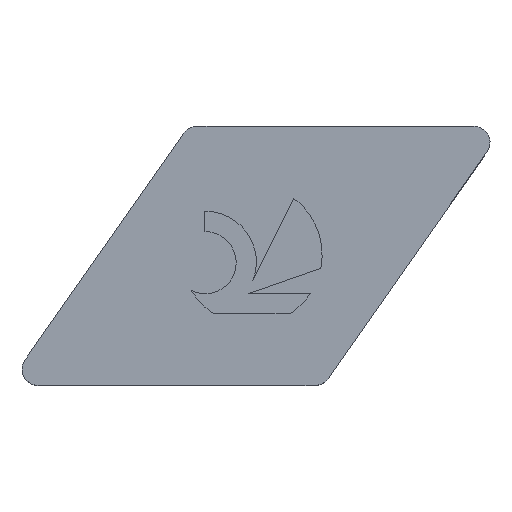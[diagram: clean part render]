
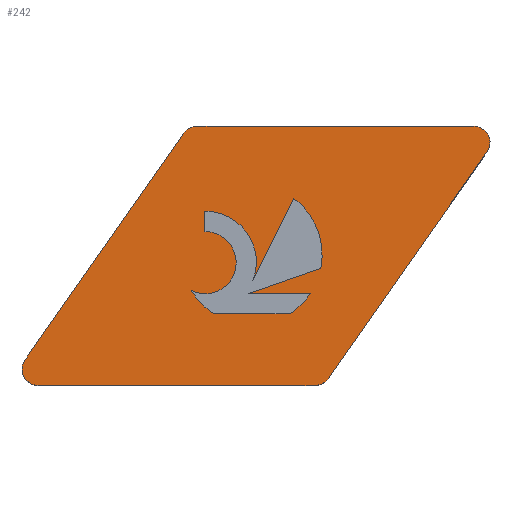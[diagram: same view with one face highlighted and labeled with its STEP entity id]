
A CAD part, top view. The second image highlights one B-rep face of the part: STEP entity #242.
In plain terms, the highlighted planar face has unit normal (0, 0, 1).
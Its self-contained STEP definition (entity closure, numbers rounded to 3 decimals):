
#144=EDGE_CURVE('',#376,#152,#397,.T.);
#146=EDGE_CURVE('',#366,#350,#399,.T.);
#152=VERTEX_POINT('',#405);
#160=EDGE_CURVE('',#360,#340,#415,.T.);
#166=EDGE_CURVE('',#174,#328,#421,.T.);
#174=VERTEX_POINT('',#431);
#186=EDGE_CURVE('',#340,#366,#445,.T.);
#200=EDGE_CURVE('',#328,#244,#459,.T.);
#202=EDGE_CURVE('',#274,#174,#461,.T.);
#204=VERTEX_POINT('',#463);
#212=EDGE_CURVE('',#350,#274,#471,.T.);
#218=VERTEX_POINT('',#478);
#226=EDGE_CURVE('',#348,#376,#489,.T.);
#232=VERTEX_POINT('',#496);
#236=EDGE_CURVE('',#312,#348,#500,.T.);
#240=VERTEX_POINT('',#504);
#242=ADVANCED_FACE('',(#506,#507),#508,.T.);
#244=VERTEX_POINT('',#510);
#248=EDGE_CURVE('',#204,#232,#514,.T.);
#266=VERTEX_POINT('',#534);
#274=VERTEX_POINT('',#544);
#278=VERTEX_POINT('',#549);
#280=EDGE_CURVE('',#244,#204,#551,.T.);
#284=EDGE_CURVE('',#152,#240,#555,.T.);
#290=EDGE_CURVE('',#240,#278,#561,.T.);
#300=EDGE_CURVE('',#232,#266,#572,.T.);
#306=EDGE_CURVE('',#278,#218,#578,.T.);
#312=VERTEX_POINT('',#585);
#322=EDGE_CURVE('',#218,#368,#596,.T.);
#328=VERTEX_POINT('',#602);
#330=EDGE_CURVE('',#266,#360,#604,.T.);
#336=EDGE_CURVE('',#368,#312,#610,.T.);
#340=VERTEX_POINT('',#614);
#348=VERTEX_POINT('',#622);
#350=VERTEX_POINT('',#624);
#360=VERTEX_POINT('',#635);
#366=VERTEX_POINT('',#641);
#368=VERTEX_POINT('',#643);
#376=VERTEX_POINT('',#651);
#397=CIRCLE('',#663,0.794);
#399=LINE('',#666,#667);
#405=CARTESIAN_POINT('',(1.525,0.0,0.0));
#415=LINE('',#687,#688);
#421=LINE('',#699,#700);
#431=CARTESIAN_POINT('',(11.817,4.501,0.0));
#445=CIRCLE('',#730,2.504);
#459=CIRCLE('',#751,3.447);
#461=LINE('',#754,#755);
#463=CARTESIAN_POINT('',(10.113,3.52,0.0));
#471=CIRCLE('',#768,3.447);
#478=CARTESIAN_POINT('',(23.522,11.451,0.0));
#489=LINE('',#787,#788);
#496=CARTESIAN_POINT('',(9.023,4.658,0.0));
#500=CIRCLE('',#802,0.794);
#504=CARTESIAN_POINT('',(15.091,0.0,0.0));
#506=FACE_BOUND('',#810,.T.);
#507=FACE_OUTER_BOUND('',#811,.T.);
#508=PLANE('',#812);
#510=CARTESIAN_POINT('',(13.871,3.52,0.0));
#514=CIRCLE('',#820,3.447);
#534=CARTESIAN_POINT('',(10.385,7.38,0.0));
#544=CARTESIAN_POINT('',(15.373,5.736,0.0));
#549=CARTESIAN_POINT('',(15.741,0.339,0.0));
#551=LINE('',#863,#864);
#555=LINE('',#870,#871);
#561=CIRCLE('',#880,0.794);
#572=CIRCLE('',#898,1.522);
#578=LINE('',#907,#908);
#585=CARTESIAN_POINT('',(9.306,12.7,0.0));
#596=CIRCLE('',#931,0.794);
#602=CARTESIAN_POINT('',(14.863,4.501,0.0));
#604=CIRCLE('',#944,1.522);
#610=LINE('',#953,#954);
#614=CARTESIAN_POINT('',(9.694,8.541,0.0));
#622=CARTESIAN_POINT('',(8.656,12.361,0.0));
#624=CARTESIAN_POINT('',(14.044,9.18,0.0));
#635=CARTESIAN_POINT('',(9.694,7.54,0.0));
#641=CARTESIAN_POINT('',(12.051,5.137,0.0));
#643=CARTESIAN_POINT('',(22.871,12.7,0.0));
#651=CARTESIAN_POINT('',(0.875,1.249,0.0));
#663=AXIS2_PLACEMENT_3D('',#1019,#1020,#1021);
#666=CARTESIAN_POINT('',(13.302,7.676,0.0));
#667=VECTOR('',#1022,1.0);
#687=CARTESIAN_POINT('',(9.694,7.445,0.0));
#688=VECTOR('',#1043,1.0);
#699=CARTESIAN_POINT('',(13.53,4.501,0.0));
#700=VECTOR('',#1046,1.0);
#730=AXIS2_PLACEMENT_3D('',#1083,#1084,#1085);
#751=AXIS2_PLACEMENT_3D('',#1094,#1095,#1096);
#754=CARTESIAN_POINT('',(12.274,4.66,0.0));
#755=VECTOR('',#1097,1.0);
#768=AXIS2_PLACEMENT_3D('',#1104,#1105,#1106);
#787=CARTESIAN_POINT('',(8.656,12.361,0.0));
#788=VECTOR('',#1139,1.0);
#802=AXIS2_PLACEMENT_3D('',#1149,#1150,#1151);
#810=EDGE_LOOP('',(#1154,#1155,#1156,#1157,#1158,#1159,#1160,#1161,#1162,#1163,#1164));
#811=EDGE_LOOP('',(#1165,#1166,#1167,#1168,#1169,#1170,#1171,#1172));
#812=AXIS2_PLACEMENT_3D('',#1173,#1174,#1175);
#820=AXIS2_PLACEMENT_3D('',#1179,#1180,#1181);
#863=CARTESIAN_POINT('',(11.156,3.52,0.0));
#864=VECTOR('',#1238,1.0);
#870=CARTESIAN_POINT('',(1.525,0.0,0.0));
#871=VECTOR('',#1242,1.0);
#880=AXIS2_PLACEMENT_3D('',#1244,#1245,#1246);
#898=AXIS2_PLACEMENT_3D('',#1258,#1259,#1260);
#907=CARTESIAN_POINT('',(15.741,0.339,0.0));
#908=VECTOR('',#1262,1.0);
#931=AXIS2_PLACEMENT_3D('',#1286,#1287,#1288);
#944=AXIS2_PLACEMENT_3D('',#1291,#1292,#1293);
#953=CARTESIAN_POINT('',(22.871,12.7,0.0));
#954=VECTOR('',#1295,1.0);
#1019=CARTESIAN_POINT('',(1.525,0.794,0.0));
#1020=DIRECTION('',(0.0,0.0,1.0));
#1021=DIRECTION('',(-0.819,0.574,0.0));
#1022=DIRECTION('',(0.442,0.897,-0.0));
#1043=DIRECTION('',(0.0,1.0,0.0));
#1046=DIRECTION('',(1.0,0.0,0.0));
#1083=CARTESIAN_POINT('',(9.714,6.037,0.0));
#1084=DIRECTION('',(0.0,-0.0,-1.0));
#1085=DIRECTION('',(0.933,-0.359,0.0));
#1094=CARTESIAN_POINT('',(11.992,6.41,0.0));
#1095=DIRECTION('',(0.0,-0.0,-1.0));
#1096=DIRECTION('',(0.545,-0.838,0.0));
#1097=DIRECTION('',(-0.945,-0.328,0.0));
#1104=CARTESIAN_POINT('',(11.992,6.41,0.0));
#1105=DIRECTION('',(0.0,-0.0,-1.0));
#1106=DIRECTION('',(0.981,-0.196,0.0));
#1139=DIRECTION('',(-0.574,-0.819,0.0));
#1149=CARTESIAN_POINT('',(9.306,11.906,0.0));
#1150=DIRECTION('',(0.0,0.0,1.0));
#1151=DIRECTION('',(0.,1.0,0.0));
#1154=ORIENTED_EDGE('',*,*,#160,.T.);
#1155=ORIENTED_EDGE('',*,*,#186,.T.);
#1156=ORIENTED_EDGE('',*,*,#146,.T.);
#1157=ORIENTED_EDGE('',*,*,#212,.T.);
#1158=ORIENTED_EDGE('',*,*,#202,.T.);
#1159=ORIENTED_EDGE('',*,*,#166,.T.);
#1160=ORIENTED_EDGE('',*,*,#200,.T.);
#1161=ORIENTED_EDGE('',*,*,#280,.T.);
#1162=ORIENTED_EDGE('',*,*,#248,.T.);
#1163=ORIENTED_EDGE('',*,*,#300,.T.);
#1164=ORIENTED_EDGE('',*,*,#330,.T.);
#1165=ORIENTED_EDGE('',*,*,#284,.T.);
#1166=ORIENTED_EDGE('',*,*,#290,.T.);
#1167=ORIENTED_EDGE('',*,*,#306,.T.);
#1168=ORIENTED_EDGE('',*,*,#322,.T.);
#1169=ORIENTED_EDGE('',*,*,#336,.T.);
#1170=ORIENTED_EDGE('',*,*,#236,.T.);
#1171=ORIENTED_EDGE('',*,*,#226,.T.);
#1172=ORIENTED_EDGE('',*,*,#144,.T.);
#1173=CARTESIAN_POINT('',(12.198,6.35,0.0));
#1174=DIRECTION('',(0.0,0.0,1.0));
#1175=DIRECTION('',(1.0,0.0,0.0));
#1179=CARTESIAN_POINT('',(11.992,6.41,0.0));
#1180=DIRECTION('',(-0.0,0.0,-1.0));
#1181=DIRECTION('',(-0.861,-0.508,0.0));
#1238=DIRECTION('',(-1.0,0.0,0.0));
#1242=DIRECTION('',(1.0,0.0,0.0));
#1244=CARTESIAN_POINT('',(15.091,0.794,0.0));
#1245=DIRECTION('',(0.0,0.0,1.0));
#1246=DIRECTION('',(0.,-1.0,0.0));
#1258=CARTESIAN_POINT('',(9.704,6.019,0.0));
#1259=DIRECTION('',(0.0,0.0,1.0));
#1260=DIRECTION('',(-0.447,-0.894,0.0));
#1262=DIRECTION('',(0.574,0.819,0.0));
#1286=CARTESIAN_POINT('',(22.871,11.906,0.0));
#1287=DIRECTION('',(-0.0,0.0,1.0));
#1288=DIRECTION('',(0.819,-0.574,0.0));
#1291=CARTESIAN_POINT('',(9.704,6.019,0.0));
#1292=DIRECTION('',(0.0,0.0,1.0));
#1293=DIRECTION('',(-0.447,-0.894,0.0));
#1295=DIRECTION('',(-1.0,0.0,0.0));
